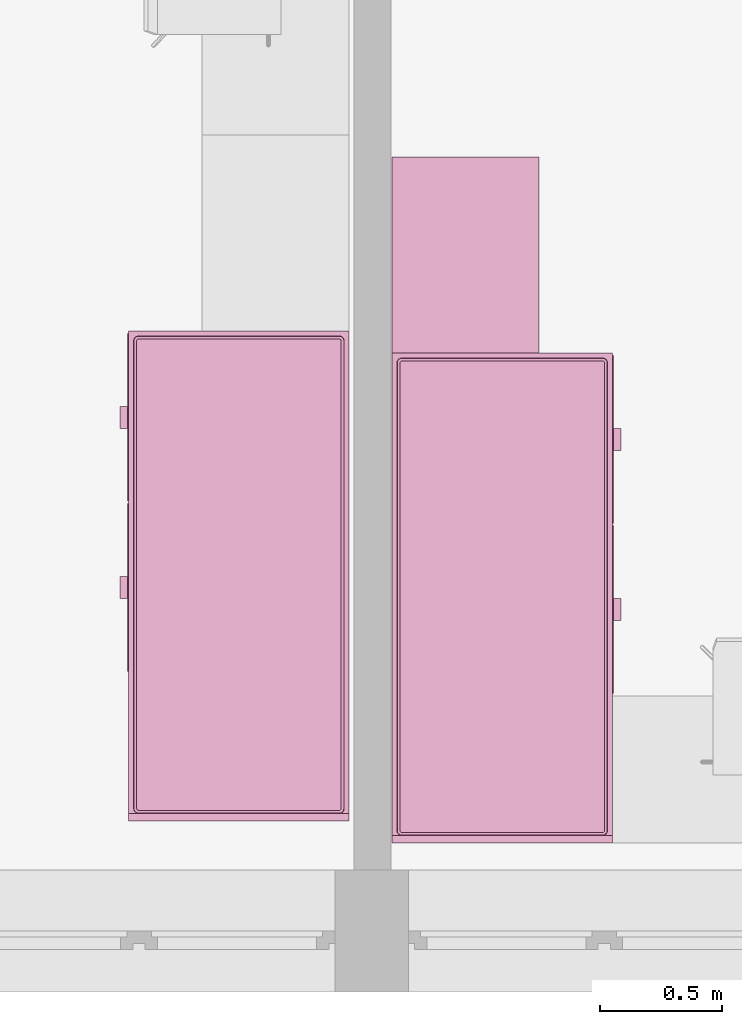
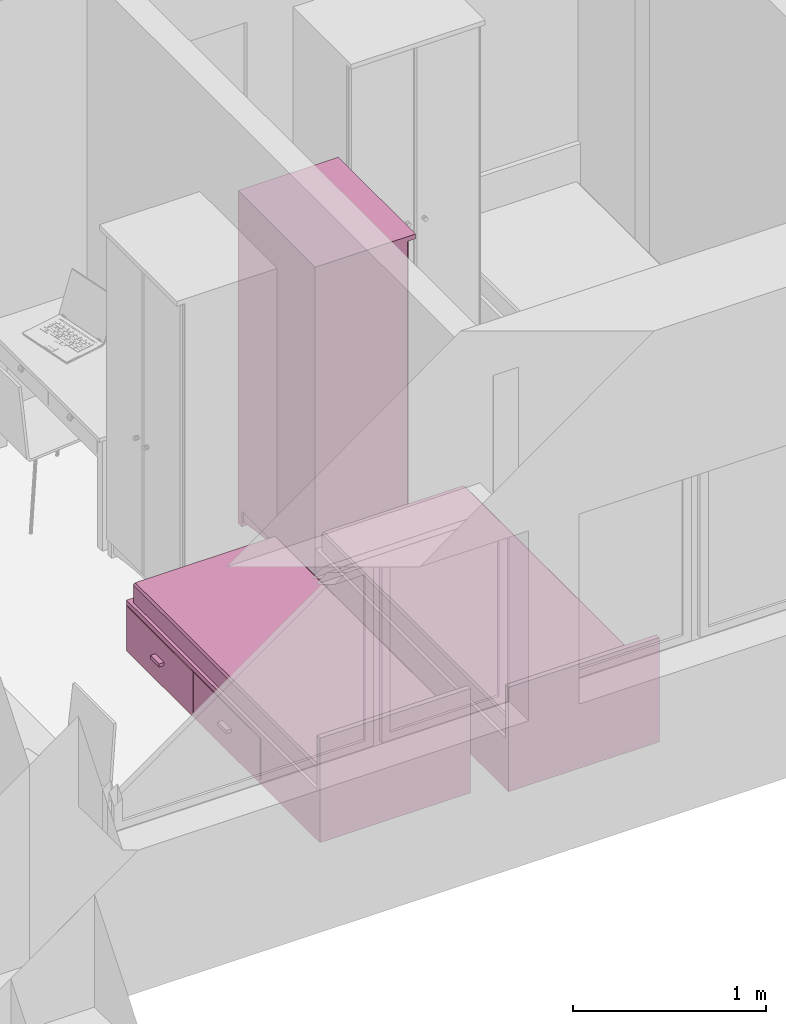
# One storey, part 116 of 172: 3 furnishings.
"""IFC2X3 building model written with IfcOpenShell, lengths in millimetres."""

from ifc_helpers import new_model, entity, si_unit, converted_unit, money_unit, direction, frame, origin_with_axes, place, context, subcontext, project, spatial, faceted_brep, source, transform, mapped, material, material_list, type_object, element, save


model = new_model("IFC2X3")

# Units and contexts
model_context = context("Model", 3, precision=1e-05, world=origin_with_axes(), true_north=direction((0.0, 1.0)))
body_context = subcontext(model_context, "Body", "Model", "MODEL_VIEW")
ifc_project = project(units=[si_unit("LENGTHUNIT", "METRE", prefix="MILLI"), si_unit("AREAUNIT", "SQUARE_METRE"), si_unit("VOLUMEUNIT", "CUBIC_METRE"), converted_unit("PLANEANGLEUNIT", "DEGREE", entity("IfcPlaneAngleMeasure", 0.0174532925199), si_unit("PLANEANGLEUNIT", "RADIAN"), dimensions=[0, 0, 0, 0, 0, 0, 0]), si_unit("SOLIDANGLEUNIT", "STERADIAN"), money_unit("USD"), converted_unit("TIMEUNIT", "Year", entity("IfcTimeMeasure", 31556926.0), si_unit("TIMEUNIT", "SECOND"), dimensions=[0, 0, 0, 0, 0, 0, 0]), si_unit("MASSUNIT", "GRAM"), si_unit("THERMODYNAMICTEMPERATUREUNIT", "DEGREE_CELSIUS"), si_unit("LUMINOUSINTENSITYUNIT", "LUMEN")], contexts=[model_context])

# Site, building, storey
site_placement = place(None, origin_with_axes())
site = spatial("IfcSite", under=ifc_project, at=site_placement, Name="Site", CompositionType="ELEMENT")
building_placement = place(site_placement, origin_with_axes())
building = spatial("IfcBuilding", under=site, at=building_placement, Name="Building", CompositionType="ELEMENT")
storey_placement = place(building_placement, frame((0.0, 0.0, 3200.0), z_axis=(0.0, 0.0, 1.0), x_axis=(1.0, 0.0, 0.0)))
storey = spatial("IfcBuildingStorey", under=building, at=storey_placement, Name="3KORRUS", CompositionType="ELEMENT", Elevation=3200.0)

# Furnishings
ifc_material = material(Name="Background")
ifc_material_list = material_list([ifc_material])
furnishing_element_type_1 = type_object("IfcFurnishingElementType", Name="Bed 19")
shared_shape_1 = source(origin_with_axes(), body_context, "Body", "Brep", [
    faceted_brep([(900.0, 1970.0, 0.0), (0.0, 1970.0, 0.0), (0.0, 2000.0, 0.0), (900.0, 2000.0, 0.0), (900.0, 1970.0, 660.0), (0.0, 1970.0, 660.0), (0.0, 2000.0, 660.0), (900.0, 2000.0, 660.0)], [[[0, 1, 2, 3]], [[1, 0, 4, 5]], [[2, 1, 5, 6]], [[3, 2, 6, 7]], [[0, 3, 7, 4]], [[5, 4, 7, 6]]]),
    faceted_brep([(900.0, 0.0, 0.0), (0.0, 0.0, 0.0), (0.0, 1970.0, 0.0), (900.0, 1970.0, 0.0), (900.0, 0.0, 320.0), (0.0, 0.0, 320.0), (0.0, 1970.0, 320.0), (900.0, 1970.0, 320.0)], [[[0, 1, 2, 3]], [[1, 0, 4, 5]], [[2, 1, 5, 6]], [[3, 2, 6, 7]], [[0, 3, 7, 4]], [[5, 4, 7, 6]]]),
    faceted_brep([(905.0, 10.0, 30.0), (900.0, 10.0, 30.0), (900.0, 695.0, 30.0), (905.0, 695.0, 30.0), (905.0, 10.0, 290.0), (900.0, 10.0, 290.0), (900.0, 695.0, 290.0), (905.0, 695.0, 290.0)], [[[0, 1, 2, 3]], [[1, 0, 4, 5]], [[2, 1, 5, 6]], [[3, 2, 6, 7]], [[0, 3, 7, 4]], [[5, 4, 7, 6]]]),
    faceted_brep([(935.0, 307.5, 150.0), (905.0, 307.5, 150.0), (905.0, 397.5, 150.0), (935.0, 397.5, 150.0), (935.0, 307.5, 170.0), (905.0, 307.5, 170.0), (905.0, 397.5, 170.0), (935.0, 397.5, 170.0)], [[[0, 1, 2, 3]], [[1, 0, 4, 5]], [[2, 1, 5, 6]], [[3, 2, 6, 7]], [[0, 3, 7, 4]], [[5, 4, 7, 6]]]),
    faceted_brep([(905.0, 705.0, 30.0), (900.0, 705.0, 30.0), (900.0, 1390.0, 30.0), (905.0, 1390.0, 30.0), (905.0, 705.0, 290.0), (900.0, 705.0, 290.0), (900.0, 1390.0, 290.0), (905.0, 1390.0, 290.0)], [[[0, 1, 2, 3]], [[1, 0, 4, 5]], [[2, 1, 5, 6]], [[3, 2, 6, 7]], [[0, 3, 7, 4]], [[5, 4, 7, 6]]]),
    faceted_brep([(935.0, 1002.5, 150.0), (905.0, 1002.5, 150.0), (905.0, 1092.5, 150.0), (935.0, 1092.5, 150.0), (935.0, 1002.5, 170.0), (905.0, 1002.5, 170.0), (905.0, 1092.5, 170.0), (935.0, 1092.5, 170.0)], [[[0, 1, 2, 3]], [[1, 0, 4, 5]], [[2, 1, 5, 6]], [[3, 2, 6, 7]], [[0, 3, 7, 4]], [[5, 4, 7, 6]]]),
    faceted_brep([(20.0, 40.0, 350.0), (20.0, 1950.0, 350.0), (21.522, 1957.654, 350.0), (25.858, 1964.142, 350.0), (32.346, 1968.478, 350.0), (40.0, 1970.0, 350.0), (860.0, 1970.0, 350.0), (867.654, 1968.478, 350.0), (874.142, 1964.142, 350.0), (878.478, 1957.654, 350.0), (880.0, 1950.0, 350.0), (880.0, 40.0, 350.0), (878.478, 32.346, 350.0), (874.142, 25.858, 350.0), (867.654, 21.522, 350.0), (860.0, 20.0, 350.0), (40.0, 20.0, 350.0), (32.346, 21.522, 350.0), (25.858, 25.858, 350.0), (21.522, 32.346, 350.0), (20.0, 40.0, 420.0), (20.0, 1950.0, 420.0), (21.522, 1957.654, 420.0), (25.858, 1964.142, 420.0), (32.346, 1968.478, 420.0), (40.0, 1970.0, 420.0), (860.0, 1970.0, 420.0), (867.654, 1968.478, 420.0), (874.142, 1964.142, 420.0), (878.478, 1957.654, 420.0), (880.0, 1950.0, 420.0), (880.0, 40.0, 420.0), (878.478, 32.346, 420.0), (874.142, 25.858, 420.0), (867.654, 21.522, 420.0), (860.0, 20.0, 420.0), (40.0, 20.0, 420.0), (32.346, 21.522, 420.0), (25.858, 25.858, 420.0), (21.522, 32.346, 420.0), (21.522, 40.15, 427.654), (21.522, 1949.85, 427.654), (22.956, 1957.06, 427.654), (26.955, 1963.045, 427.654), (32.94, 1967.044, 427.654), (40.15, 1968.478, 427.654), (859.85, 1968.478, 427.654), (867.06, 1967.044, 427.654), (873.045, 1963.045, 427.654), (877.044, 1957.06, 427.654), (878.478, 1949.85, 427.654), (878.478, 40.15, 427.654), (877.044, 32.94, 427.654), (873.045, 26.955, 427.654), (867.06, 22.956, 427.654), (859.85, 21.522, 427.654), (40.15, 21.522, 427.654), (32.94, 22.956, 427.654), (26.955, 26.955, 427.654), (22.956, 32.94, 427.654), (32.346, 41.216, 438.478), (32.346, 1948.784, 438.478), (33.152, 1952.836, 438.478), (34.759, 1955.241, 438.478), (37.164, 1956.848, 438.478), (41.216, 1957.654, 438.478), (858.784, 1957.654, 438.478), (862.836, 1956.848, 438.478), (865.241, 1955.241, 438.478), (866.848, 1952.836, 438.478), (867.654, 1948.784, 438.478), (867.654, 41.216, 438.478), (866.848, 37.164, 438.478), (865.241, 34.759, 438.478), (862.836, 33.152, 438.478), (858.784, 32.346, 438.478), (41.216, 32.346, 438.478), (37.164, 33.152, 438.478), (34.759, 34.759, 438.478), (33.152, 37.164, 438.478), (40.0, 41.97, 440.0), (40.0, 1948.03, 440.0), (40.327, 1949.673, 440.0), (40.0, 1950.0, 439.924), (41.97, 1950.0, 440.0), (858.03, 1950.0, 440.0), (859.673, 1949.673, 440.0), (860.0, 1950.0, 439.924), (860.0, 1948.03, 440.0), (860.0, 41.97, 440.0), (859.673, 40.327, 440.0), (860.0, 40.0, 439.924), (858.03, 40.0, 440.0), (41.97, 40.0, 440.0), (40.327, 40.327, 440.0), (40.0, 40.0, 439.924)], [[[0, 1, 2, 3, 4, 5, 6, 7, 8, 9, 10, 11, 12, 13, 14, 15, 16, 17, 18, 19]], [[1, 0, 20, 21]], [[2, 1, 21, 22]], [[3, 2, 22, 23]], [[4, 3, 23, 24]], [[5, 4, 24, 25]], [[6, 5, 25, 26]], [[7, 6, 26, 27]], [[8, 7, 27, 28]], [[9, 8, 28, 29]], [[10, 9, 29, 30]], [[11, 10, 30, 31]], [[12, 11, 31, 32]], [[13, 12, 32, 33]], [[14, 13, 33, 34]], [[15, 14, 34, 35]], [[16, 15, 35, 36]], [[17, 16, 36, 37]], [[18, 17, 37, 38]], [[19, 18, 38, 39]], [[0, 19, 39, 20]], [[21, 20, 40, 41]], [[22, 21, 41, 42]], [[23, 22, 42, 43]], [[24, 23, 43, 44]], [[25, 24, 44, 45]], [[26, 25, 45, 46]], [[27, 26, 46, 47]], [[28, 27, 47, 48]], [[29, 28, 48, 49]], [[30, 29, 49, 50]], [[31, 30, 50, 51]], [[32, 31, 51, 52]], [[33, 32, 52, 53]], [[34, 33, 53, 54]], [[35, 34, 54, 55]], [[36, 35, 55, 56]], [[37, 36, 56, 57]], [[38, 37, 57, 58]], [[39, 38, 58, 59]], [[20, 39, 59, 40]], [[41, 40, 60, 61]], [[42, 41, 61, 62]], [[43, 42, 62, 63]], [[44, 43, 63, 64]], [[45, 44, 64, 65]], [[46, 45, 65, 66]], [[47, 46, 66, 67]], [[48, 47, 67, 68]], [[49, 48, 68, 69]], [[50, 49, 69, 70]], [[51, 50, 70, 71]], [[52, 51, 71, 72]], [[53, 52, 72, 73]], [[54, 53, 73, 74]], [[55, 54, 74, 75]], [[56, 55, 75, 76]], [[57, 56, 76, 77]], [[58, 57, 77, 78]], [[59, 58, 78, 79]], [[40, 59, 79, 60]], [[61, 60, 80, 81]], [[62, 61, 81, 82, 83]], [[63, 62, 83]], [[64, 63, 83]], [[65, 64, 83, 82, 84]], [[66, 65, 84, 85]], [[67, 66, 85, 86, 87]], [[68, 67, 87]], [[69, 68, 87]], [[70, 69, 87, 86, 88]], [[71, 70, 88, 89]], [[72, 71, 89, 90, 91]], [[73, 72, 91]], [[74, 73, 91]], [[75, 74, 91, 90, 92]], [[76, 75, 92, 93]], [[77, 76, 93, 94, 95]], [[78, 77, 95]], [[79, 78, 95]], [[60, 79, 95, 94, 80]], [[81, 80, 94, 93, 92, 90, 89, 88, 86, 85, 84, 82]]]),
    faceted_brep([(20.0, 40.0, 350.0), (21.522, 32.346, 350.0), (25.858, 25.858, 350.0), (32.346, 21.522, 350.0), (40.0, 20.0, 350.0), (860.0, 20.0, 350.0), (867.654, 21.522, 350.0), (874.142, 25.858, 350.0), (878.478, 32.346, 350.0), (880.0, 40.0, 350.0), (880.0, 1950.0, 350.0), (878.478, 1957.654, 350.0), (874.142, 1964.142, 350.0), (867.654, 1968.478, 350.0), (860.0, 1970.0, 350.0), (40.0, 1970.0, 350.0), (32.346, 1968.478, 350.0), (25.858, 1964.142, 350.0), (21.522, 1957.654, 350.0), (20.0, 1950.0, 350.0), (20.0, 40.0, 320.0), (21.522, 32.346, 320.0), (25.858, 25.858, 320.0), (32.346, 21.522, 320.0), (40.0, 20.0, 320.0), (860.0, 20.0, 320.0), (867.654, 21.522, 320.0), (874.142, 25.858, 320.0), (878.478, 32.346, 320.0), (880.0, 40.0, 320.0), (880.0, 1950.0, 320.0), (878.478, 1957.654, 320.0), (874.142, 1964.142, 320.0), (867.654, 1968.478, 320.0), (860.0, 1970.0, 320.0), (40.0, 1970.0, 320.0), (32.346, 1968.478, 320.0), (25.858, 1964.142, 320.0), (21.522, 1957.654, 320.0), (20.0, 1950.0, 320.0)], [[[0, 1, 2, 3, 4, 5, 6, 7, 8, 9, 10, 11, 12, 13, 14, 15, 16, 17, 18, 19]], [[0, 20, 21, 1]], [[1, 21, 22, 2]], [[2, 22, 23, 3]], [[3, 23, 24, 4]], [[4, 24, 25, 5]], [[5, 25, 26, 6]], [[6, 26, 27, 7]], [[7, 27, 28, 8]], [[8, 28, 29, 9]], [[9, 29, 30, 10]], [[10, 30, 31, 11]], [[11, 31, 32, 12]], [[12, 32, 33, 13]], [[13, 33, 34, 14]], [[14, 34, 35, 15]], [[15, 35, 36, 16]], [[16, 36, 37, 17]], [[17, 37, 38, 18]], [[18, 38, 39, 19]], [[19, 39, 20, 0]], [[20, 39, 38, 37, 36, 35, 34, 33, 32, 31, 30, 29, 28, 27, 26, 25, 24, 23, 22, 21]]]),
])
furnishing_1_placement = place(storey_placement, frame((-21240.2967033, -17439.2398994, 0.0), z_axis=(0.0, 0.0, 1.0), x_axis=(-1.0, 0.0, 0.0)))
element("IfcFurnishingElement", 1, at=furnishing_1_placement, inside=storey, type_object=furnishing_element_type_1, material=ifc_material_list, Name="FU - 013", context=body_context, shape_type="MappedRepresentation", body=[
    mapped(shared_shape_1, transform((0.0, 0.0, 0.0))),
])
furnishing_element_type_2 = type_object("IfcFurnishingElementType", Name="Cupboard 19")
shared_shape_2 = source(origin_with_axes(), body_context, "Body", "Brep", [
    faceted_brep([(780.0, 600.0, 120.0), (780.0, 600.0, 2050.0), (780.0, 580.0, 2050.0), (780.0, 580.0, 120.0), (20.0, 600.0, 120.0), (20.0, 600.0, 2050.0), (20.0, 580.0, 2050.0), (20.0, 580.0, 120.0)], [[[0, 1, 2, 3]], [[4, 5, 1, 0]], [[1, 5, 6, 2]], [[3, 2, 6, 7]], [[0, 3, 7, 4]], [[7, 6, 5, 4]]]),
    faceted_brep([(0.0, 50.0, 100.0), (0.0, 600.0, 100.0), (20.0, 600.0, 100.0), (20.0, 50.0, 100.0), (0.0, 50.0, 2070.0), (0.0, 600.0, 2070.0), (20.0, 600.0, 2070.0), (20.0, 50.0, 2070.0)], [[[0, 1, 2, 3]], [[0, 4, 5, 1]], [[1, 5, 6, 2]], [[2, 6, 7, 3]], [[3, 7, 4, 0]], [[7, 6, 5, 4]]]),
    faceted_brep([(780.0, 50.0, 100.0), (780.0, 600.0, 100.0), (800.0, 600.0, 100.0), (800.0, 50.0, 100.0), (780.0, 50.0, 2070.0), (780.0, 600.0, 2070.0), (800.0, 600.0, 2070.0), (800.0, 50.0, 2070.0)], [[[0, 1, 2, 3]], [[0, 4, 5, 1]], [[1, 5, 6, 2]], [[2, 6, 7, 3]], [[3, 7, 4, 0]], [[7, 6, 5, 4]]]),
    faceted_brep([(20.0, 50.0, 100.0), (20.0, 600.0, 100.0), (780.0, 600.0, 100.0), (780.0, 50.0, 100.0), (20.0, 50.0, 120.0), (20.0, 600.0, 120.0), (780.0, 600.0, 120.0), (780.0, 50.0, 120.0)], [[[0, 1, 2, 3]], [[0, 4, 5, 1]], [[1, 5, 6, 2]], [[2, 6, 7, 3]], [[3, 7, 4, 0]], [[7, 6, 5, 4]]]),
    faceted_brep([(20.0, 50.0, 2050.0), (20.0, 600.0, 2050.0), (780.0, 600.0, 2050.0), (780.0, 50.0, 2050.0), (20.0, 50.0, 2070.0), (20.0, 600.0, 2070.0), (780.0, 600.0, 2070.0), (780.0, 50.0, 2070.0)], [[[0, 1, 2, 3]], [[0, 4, 5, 1]], [[1, 5, 6, 2]], [[2, 6, 7, 3]], [[3, 7, 4, 0]], [[7, 6, 5, 4]]]),
    faceted_brep([(0.0, 600.0, 2070.0), (0.0, 0.0, 2070.0), (0.0, 0.0, 2100.0), (0.0, 600.0, 2100.0), (800.0, 600.0, 2070.0), (800.0, 0.0, 2070.0), (800.0, 0.0, 2100.0), (800.0, 600.0, 2100.0)], [[[0, 1, 2, 3]], [[0, 4, 5, 1]], [[1, 5, 6, 2]], [[3, 2, 6, 7]], [[4, 0, 3, 7]], [[5, 4, 7, 6]]]),
    faceted_brep([(760.0, 590.0, 25.0), (760.0, 570.0, 25.0), (640.962, 570.0, 45.8), (640.962, 590.0, 45.8), (760.0, 590.0, 100.0), (760.0, 570.0, 100.0), (40.0, 570.0, 100.0), (40.0, 570.0, 25.0), (159.038, 570.0, 45.8), (279.23, 570.0, 58.32), (400.0, 570.0, 62.5), (520.77, 570.0, 58.32), (520.77, 590.0, 58.32), (400.0, 590.0, 62.5), (279.23, 590.0, 58.32), (159.038, 590.0, 45.8), (40.0, 590.0, 25.0), (40.0, 590.0, 100.0)], [[[0, 1, 2, 3]], [[4, 5, 1, 0]], [[1, 5, 6, 7, 8, 9, 10, 11, 2]], [[3, 2, 11, 12]], [[0, 3, 12, 13, 14, 15, 16, 17, 4]], [[17, 6, 5, 4]], [[16, 7, 6, 17]], [[15, 8, 7, 16]], [[14, 9, 8, 15]], [[13, 10, 9, 14]], [[12, 11, 10, 13]]]),
    faceted_brep([(760.0, 80.0, 25.0), (760.0, 60.0, 25.0), (640.962, 60.0, 45.8), (640.962, 80.0, 45.8), (760.0, 80.0, 100.0), (760.0, 60.0, 100.0), (40.0, 60.0, 100.0), (40.0, 60.0, 25.0), (159.038, 60.0, 45.8), (279.23, 60.0, 58.32), (400.0, 60.0, 62.5), (520.77, 60.0, 58.32), (520.77, 80.0, 58.32), (400.0, 80.0, 62.5), (279.23, 80.0, 58.32), (159.038, 80.0, 45.8), (40.0, 80.0, 25.0), (40.0, 80.0, 100.0)], [[[0, 1, 2, 3]], [[4, 5, 1, 0]], [[1, 5, 6, 7, 8, 9, 10, 11, 2]], [[3, 2, 11, 12]], [[0, 3, 12, 13, 14, 15, 16, 17, 4]], [[17, 6, 5, 4]], [[16, 7, 6, 17]], [[15, 8, 7, 16]], [[14, 9, 8, 15]], [[13, 10, 9, 14]], [[12, 11, 10, 13]]]),
    faceted_brep([(790.0, 90.0, 25.0), (770.0, 90.0, 25.0), (770.0, 141.266, 38.072), (790.0, 141.266, 38.072), (790.0, 90.0, 100.0), (770.0, 90.0, 100.0), (770.0, 560.0, 100.0), (770.0, 560.0, 25.0), (770.0, 508.734, 38.072), (770.0, 456.752, 47.92), (770.0, 404.257, 54.508), (770.0, 351.453, 57.808), (770.0, 298.547, 57.808), (770.0, 245.743, 54.508), (770.0, 193.248, 47.92), (790.0, 193.248, 47.92), (790.0, 245.743, 54.508), (790.0, 298.547, 57.808), (790.0, 351.453, 57.808), (790.0, 404.257, 54.508), (790.0, 456.752, 47.92), (790.0, 508.734, 38.072), (790.0, 560.0, 25.0), (790.0, 560.0, 100.0)], [[[0, 1, 2, 3]], [[4, 5, 1, 0]], [[1, 5, 6, 7, 8, 9, 10, 11, 12, 13, 14, 2]], [[3, 2, 14, 15]], [[0, 3, 15, 16, 17, 18, 19, 20, 21, 22, 23, 4]], [[23, 6, 5, 4]], [[22, 7, 6, 23]], [[21, 8, 7, 22]], [[20, 9, 8, 21]], [[19, 10, 9, 20]], [[18, 11, 10, 19]], [[17, 12, 11, 18]], [[16, 13, 12, 17]], [[15, 14, 13, 16]]]),
    faceted_brep([(30.0, 90.0, 25.0), (10.0, 90.0, 25.0), (10.0, 141.266, 38.072), (30.0, 141.266, 38.072), (30.0, 90.0, 100.0), (10.0, 90.0, 100.0), (10.0, 560.0, 100.0), (10.0, 560.0, 25.0), (10.0, 508.734, 38.072), (10.0, 456.752, 47.92), (10.0, 404.257, 54.508), (10.0, 351.453, 57.808), (10.0, 298.547, 57.808), (10.0, 245.743, 54.508), (10.0, 193.248, 47.92), (30.0, 193.248, 47.92), (30.0, 245.743, 54.508), (30.0, 298.547, 57.808), (30.0, 351.453, 57.808), (30.0, 404.257, 54.508), (30.0, 456.752, 47.92), (30.0, 508.734, 38.072), (30.0, 560.0, 25.0), (30.0, 560.0, 100.0)], [[[0, 1, 2, 3]], [[4, 5, 1, 0]], [[1, 5, 6, 7, 8, 9, 10, 11, 12, 13, 14, 2]], [[3, 2, 14, 15]], [[0, 3, 15, 16, 17, 18, 19, 20, 21, 22, 23, 4]], [[23, 6, 5, 4]], [[22, 7, 6, 23]], [[21, 8, 7, 22]], [[20, 9, 8, 21]], [[19, 10, 9, 20]], [[18, 11, 10, 19]], [[17, 12, 11, 18]], [[16, 13, 12, 17]], [[15, 14, 13, 16]]]),
    faceted_brep([(760.0, 560.0, 0.0), (760.0, 560.0, 100.0), (760.0, 600.0, 100.0), (760.0, 600.0, 0.0), (800.0, 560.0, 0.0), (800.0, 560.0, 100.0), (800.0, 600.0, 100.0), (800.0, 600.0, 0.0)], [[[0, 1, 2, 3]], [[4, 5, 1, 0]], [[1, 5, 6, 2]], [[3, 2, 6, 7]], [[0, 3, 7, 4]], [[7, 6, 5, 4]]]),
    faceted_brep([(0.0, 560.0, 0.0), (0.0, 560.0, 100.0), (0.0, 600.0, 100.0), (0.0, 600.0, 0.0), (40.0, 560.0, 0.0), (40.0, 560.0, 100.0), (40.0, 600.0, 100.0), (40.0, 600.0, 0.0)], [[[0, 1, 2, 3]], [[4, 5, 1, 0]], [[1, 5, 6, 2]], [[3, 2, 6, 7]], [[0, 3, 7, 4]], [[7, 6, 5, 4]]]),
    faceted_brep([(760.0, 50.0, 0.0), (760.0, 50.0, 100.0), (760.0, 90.0, 100.0), (760.0, 90.0, 0.0), (800.0, 50.0, 0.0), (800.0, 50.0, 100.0), (800.0, 90.0, 100.0), (800.0, 90.0, 0.0)], [[[0, 1, 2, 3]], [[4, 5, 1, 0]], [[1, 5, 6, 2]], [[3, 2, 6, 7]], [[0, 3, 7, 4]], [[7, 6, 5, 4]]]),
    faceted_brep([(0.0, 50.0, 0.0), (0.0, 50.0, 100.0), (0.0, 90.0, 100.0), (0.0, 90.0, 0.0), (40.0, 50.0, 0.0), (40.0, 50.0, 100.0), (40.0, 90.0, 100.0), (40.0, 90.0, 0.0)], [[[0, 1, 2, 3]], [[4, 5, 1, 0]], [[1, 5, 6, 2]], [[3, 2, 6, 7]], [[0, 3, 7, 4]], [[7, 6, 5, 4]]]),
    faceted_brep([(780.0, 580.0, 587.5), (780.0, 580.0, 607.5), (780.0, 50.0, 607.5), (780.0, 50.0, 587.5), (20.0, 580.0, 587.5), (20.0, 580.0, 607.5), (20.0, 50.0, 607.5), (20.0, 50.0, 587.5)], [[[0, 1, 2, 3]], [[4, 5, 1, 0]], [[1, 5, 6, 2]], [[3, 2, 6, 7]], [[0, 3, 7, 4]], [[7, 6, 5, 4]]]),
    faceted_brep([(780.0, 580.0, 1075.0), (780.0, 580.0, 1095.0), (780.0, 50.0, 1095.0), (780.0, 50.0, 1075.0), (20.0, 580.0, 1075.0), (20.0, 580.0, 1095.0), (20.0, 50.0, 1095.0), (20.0, 50.0, 1075.0)], [[[0, 1, 2, 3]], [[4, 5, 1, 0]], [[1, 5, 6, 2]], [[3, 2, 6, 7]], [[0, 3, 7, 4]], [[7, 6, 5, 4]]]),
    faceted_brep([(780.0, 580.0, 1562.5), (780.0, 580.0, 1582.5), (780.0, 50.0, 1582.5), (780.0, 50.0, 1562.5), (20.0, 580.0, 1562.5), (20.0, 580.0, 1582.5), (20.0, 50.0, 1582.5), (20.0, 50.0, 1562.5)], [[[0, 1, 2, 3]], [[4, 5, 1, 0]], [[1, 5, 6, 2]], [[3, 2, 6, 7]], [[0, 3, 7, 4]], [[7, 6, 5, 4]]]),
    faceted_brep([(789.5, 50.0, 110.5), (400.5, 50.0, 110.5), (400.5, 50.0, 2059.5), (789.5, 50.0, 2059.5), (789.5, 40.0, 110.5), (400.5, 40.0, 110.5), (400.5, 40.0, 2059.5), (789.5, 40.0, 2059.5), (779.5, 30.0, 120.5), (410.5, 30.0, 120.5), (410.5, 30.0, 2049.5), (779.5, 30.0, 2049.5)], [[[0, 1, 2, 3]], [[0, 4, 5, 1]], [[1, 5, 6, 2]], [[2, 6, 7, 3]], [[3, 7, 4, 0]], [[4, 8, 9, 5]], [[5, 9, 10, 6]], [[6, 10, 11, 7]], [[7, 11, 8, 4]], [[10, 9, 8, 11]]]),
    faceted_brep([(399.5, 50.0, 110.5), (10.5, 50.0, 110.5), (10.5, 50.0, 2059.5), (399.5, 50.0, 2059.5), (399.5, 40.0, 110.5), (10.5, 40.0, 110.5), (10.5, 40.0, 2059.5), (399.5, 40.0, 2059.5), (389.5, 30.0, 120.5), (20.5, 30.0, 120.5), (20.5, 30.0, 2049.5), (389.5, 30.0, 2049.5)], [[[0, 1, 2, 3]], [[0, 4, 5, 1]], [[1, 5, 6, 2]], [[2, 6, 7, 3]], [[3, 7, 4, 0]], [[4, 8, 9, 5]], [[5, 9, 10, 6]], [[6, 10, 11, 7]], [[7, 11, 8, 4]], [[10, 9, 8, 11]]]),
    faceted_brep([(339.608, 30.0, 954.0), (338.0, 30.0, 960.0), (339.608, 30.0, 966.0), (344.0, 30.0, 970.392), (350.0, 30.0, 972.0), (356.0, 30.0, 970.392), (360.392, 30.0, 966.0), (362.0, 30.0, 960.0), (360.392, 30.0, 954.0), (356.0, 30.0, 949.608), (350.0, 30.0, 948.0), (344.0, 30.0, 949.608), (339.608, 5.0, 954.0), (338.0, 5.0, 960.0), (339.608, 5.0, 966.0), (344.0, 5.0, 970.392), (350.0, 5.0, 972.0), (356.0, 5.0, 970.392), (360.392, 5.0, 966.0), (362.0, 5.0, 960.0), (360.392, 5.0, 954.0), (356.0, 5.0, 949.608), (350.0, 5.0, 948.0), (344.0, 5.0, 949.608)], [[[0, 1, 2, 3, 4, 5, 6, 7, 8, 9, 10, 11]], [[0, 12, 13, 1]], [[1, 13, 14, 2]], [[2, 14, 15, 3]], [[3, 15, 16, 4]], [[4, 16, 17, 5]], [[5, 17, 18, 6]], [[6, 18, 19, 7]], [[7, 19, 20, 8]], [[8, 20, 21, 9]], [[9, 21, 22, 10]], [[10, 22, 23, 11]], [[11, 23, 12, 0]], [[12, 23, 22, 21, 20, 19, 18, 17, 16, 15, 14, 13]]]),
    faceted_brep([(460.392, 30.0, 954.0), (456.0, 30.0, 949.608), (450.0, 30.0, 948.0), (444.0, 30.0, 949.608), (439.608, 30.0, 954.0), (438.0, 30.0, 960.0), (439.608, 30.0, 966.0), (444.0, 30.0, 970.392), (450.0, 30.0, 972.0), (456.0, 30.0, 970.392), (460.392, 30.0, 966.0), (462.0, 30.0, 960.0), (460.392, 5.0, 954.0), (456.0, 5.0, 949.608), (450.0, 5.0, 948.0), (444.0, 5.0, 949.608), (439.608, 5.0, 954.0), (438.0, 5.0, 960.0), (439.608, 5.0, 966.0), (444.0, 5.0, 970.392), (450.0, 5.0, 972.0), (456.0, 5.0, 970.392), (460.392, 5.0, 966.0), (462.0, 5.0, 960.0)], [[[0, 1, 2, 3, 4, 5, 6, 7, 8, 9, 10, 11]], [[1, 0, 12, 13]], [[2, 1, 13, 14]], [[3, 2, 14, 15]], [[4, 3, 15, 16]], [[5, 4, 16, 17]], [[6, 5, 17, 18]], [[7, 6, 18, 19]], [[8, 7, 19, 20]], [[9, 8, 20, 21]], [[10, 9, 21, 22]], [[11, 10, 22, 23]], [[0, 11, 23, 12]], [[12, 23, 22, 21, 20, 19, 18, 17, 16, 15, 14, 13]]]),
])
furnishing_2_placement = place(storey_placement, frame((-20465.2967033, -17529.2398994, 0.0), z_axis=(0.0, 0.0, 1.0), x_axis=(0.0, 1.0, 0.0)))
element("IfcFurnishingElement", 2, at=furnishing_2_placement, inside=storey, type_object=furnishing_element_type_2, material=ifc_material_list, Name="FU - 014", context=body_context, shape_type="MappedRepresentation", body=[
    mapped(shared_shape_2, transform((0.0, 0.0, 0.0))),
])
shared_shape_3 = source(origin_with_axes(), body_context, "Body", "Brep", [
    faceted_brep([(-900.0, 1970.0, 0.0), (-900.0, 2000.0, 0.0), (0.0, 2000.0, 0.0), (0.0, 1970.0, 0.0), (-900.0, 1970.0, 660.0), (-900.0, 2000.0, 660.0), (0.0, 2000.0, 660.0), (0.0, 1970.0, 660.0)], [[[0, 1, 2, 3]], [[0, 4, 5, 1]], [[1, 5, 6, 2]], [[2, 6, 7, 3]], [[3, 7, 4, 0]], [[7, 6, 5, 4]]]),
    faceted_brep([(-900.0, 0.0, 0.0), (-900.0, 1970.0, 0.0), (0.0, 1970.0, 0.0), (0.0, 0.0, 0.0), (-900.0, 0.0, 320.0), (-900.0, 1970.0, 320.0), (0.0, 1970.0, 320.0), (0.0, 0.0, 320.0)], [[[0, 1, 2, 3]], [[0, 4, 5, 1]], [[1, 5, 6, 2]], [[2, 6, 7, 3]], [[3, 7, 4, 0]], [[7, 6, 5, 4]]]),
    faceted_brep([(-905.0, 10.0, 30.0), (-905.0, 695.0, 30.0), (-900.0, 695.0, 30.0), (-900.0, 10.0, 30.0), (-905.0, 10.0, 290.0), (-905.0, 695.0, 290.0), (-900.0, 695.0, 290.0), (-900.0, 10.0, 290.0)], [[[0, 1, 2, 3]], [[0, 4, 5, 1]], [[1, 5, 6, 2]], [[2, 6, 7, 3]], [[3, 7, 4, 0]], [[7, 6, 5, 4]]]),
    faceted_brep([(-935.0, 307.5, 150.0), (-935.0, 397.5, 150.0), (-905.0, 397.5, 150.0), (-905.0, 307.5, 150.0), (-935.0, 307.5, 170.0), (-935.0, 397.5, 170.0), (-905.0, 397.5, 170.0), (-905.0, 307.5, 170.0)], [[[0, 1, 2, 3]], [[0, 4, 5, 1]], [[1, 5, 6, 2]], [[2, 6, 7, 3]], [[3, 7, 4, 0]], [[7, 6, 5, 4]]]),
    faceted_brep([(-905.0, 705.0, 30.0), (-905.0, 1390.0, 30.0), (-900.0, 1390.0, 30.0), (-900.0, 705.0, 30.0), (-905.0, 705.0, 290.0), (-905.0, 1390.0, 290.0), (-900.0, 1390.0, 290.0), (-900.0, 705.0, 290.0)], [[[0, 1, 2, 3]], [[0, 4, 5, 1]], [[1, 5, 6, 2]], [[2, 6, 7, 3]], [[3, 7, 4, 0]], [[7, 6, 5, 4]]]),
    faceted_brep([(-935.0, 1002.5, 150.0), (-935.0, 1092.5, 150.0), (-905.0, 1092.5, 150.0), (-905.0, 1002.5, 150.0), (-935.0, 1002.5, 170.0), (-935.0, 1092.5, 170.0), (-905.0, 1092.5, 170.0), (-905.0, 1002.5, 170.0)], [[[0, 1, 2, 3]], [[0, 4, 5, 1]], [[1, 5, 6, 2]], [[2, 6, 7, 3]], [[3, 7, 4, 0]], [[7, 6, 5, 4]]]),
    faceted_brep([(-20.0, 40.0, 350.0), (-21.522, 32.346, 350.0), (-25.858, 25.858, 350.0), (-32.346, 21.522, 350.0), (-40.0, 20.0, 350.0), (-860.0, 20.0, 350.0), (-867.654, 21.522, 350.0), (-874.142, 25.858, 350.0), (-878.478, 32.346, 350.0), (-880.0, 40.0, 350.0), (-880.0, 1950.0, 350.0), (-878.478, 1957.654, 350.0), (-874.142, 1964.142, 350.0), (-867.654, 1968.478, 350.0), (-860.0, 1970.0, 350.0), (-40.0, 1970.0, 350.0), (-32.346, 1968.478, 350.0), (-25.858, 1964.142, 350.0), (-21.522, 1957.654, 350.0), (-20.0, 1950.0, 350.0), (-20.0, 40.0, 420.0), (-21.522, 32.346, 420.0), (-25.858, 25.858, 420.0), (-32.346, 21.522, 420.0), (-40.0, 20.0, 420.0), (-860.0, 20.0, 420.0), (-867.654, 21.522, 420.0), (-874.142, 25.858, 420.0), (-878.478, 32.346, 420.0), (-880.0, 40.0, 420.0), (-880.0, 1950.0, 420.0), (-878.478, 1957.654, 420.0), (-874.142, 1964.142, 420.0), (-867.654, 1968.478, 420.0), (-860.0, 1970.0, 420.0), (-40.0, 1970.0, 420.0), (-32.346, 1968.478, 420.0), (-25.858, 1964.142, 420.0), (-21.522, 1957.654, 420.0), (-20.0, 1950.0, 420.0), (-21.522, 40.15, 427.654), (-22.956, 32.94, 427.654), (-26.955, 26.955, 427.654), (-32.94, 22.956, 427.654), (-40.15, 21.522, 427.654), (-859.85, 21.522, 427.654), (-867.06, 22.956, 427.654), (-873.045, 26.955, 427.654), (-877.044, 32.94, 427.654), (-878.478, 40.15, 427.654), (-878.478, 1949.85, 427.654), (-877.044, 1957.06, 427.654), (-873.045, 1963.045, 427.654), (-867.06, 1967.044, 427.654), (-859.85, 1968.478, 427.654), (-40.15, 1968.478, 427.654), (-32.94, 1967.044, 427.654), (-26.955, 1963.045, 427.654), (-22.956, 1957.06, 427.654), (-21.522, 1949.85, 427.654), (-32.346, 41.216, 438.478), (-33.152, 37.164, 438.478), (-34.759, 34.759, 438.478), (-37.164, 33.152, 438.478), (-41.216, 32.346, 438.478), (-858.784, 32.346, 438.478), (-862.836, 33.152, 438.478), (-865.241, 34.759, 438.478), (-866.848, 37.164, 438.478), (-867.654, 41.216, 438.478), (-867.654, 1948.784, 438.478), (-866.848, 1952.836, 438.478), (-865.241, 1955.241, 438.478), (-862.836, 1956.848, 438.478), (-858.784, 1957.654, 438.478), (-41.216, 1957.654, 438.478), (-37.164, 1956.848, 438.478), (-34.759, 1955.241, 438.478), (-33.152, 1952.836, 438.478), (-32.346, 1948.784, 438.478), (-40.0, 41.97, 440.0), (-40.327, 40.327, 440.0), (-40.0, 40.0, 439.924), (-41.97, 40.0, 440.0), (-858.03, 40.0, 440.0), (-859.673, 40.327, 440.0), (-860.0, 40.0, 439.924), (-860.0, 41.97, 440.0), (-860.0, 1948.03, 440.0), (-859.673, 1949.673, 440.0), (-860.0, 1950.0, 439.924), (-858.03, 1950.0, 440.0), (-41.97, 1950.0, 440.0), (-40.327, 1949.673, 440.0), (-40.0, 1950.0, 439.924), (-40.0, 1948.03, 440.0)], [[[0, 1, 2, 3, 4, 5, 6, 7, 8, 9, 10, 11, 12, 13, 14, 15, 16, 17, 18, 19]], [[0, 20, 21, 1]], [[1, 21, 22, 2]], [[2, 22, 23, 3]], [[3, 23, 24, 4]], [[4, 24, 25, 5]], [[5, 25, 26, 6]], [[6, 26, 27, 7]], [[7, 27, 28, 8]], [[8, 28, 29, 9]], [[9, 29, 30, 10]], [[10, 30, 31, 11]], [[11, 31, 32, 12]], [[12, 32, 33, 13]], [[13, 33, 34, 14]], [[14, 34, 35, 15]], [[15, 35, 36, 16]], [[16, 36, 37, 17]], [[17, 37, 38, 18]], [[18, 38, 39, 19]], [[19, 39, 20, 0]], [[20, 40, 41, 21]], [[21, 41, 42, 22]], [[22, 42, 43, 23]], [[23, 43, 44, 24]], [[24, 44, 45, 25]], [[25, 45, 46, 26]], [[26, 46, 47, 27]], [[27, 47, 48, 28]], [[28, 48, 49, 29]], [[29, 49, 50, 30]], [[30, 50, 51, 31]], [[31, 51, 52, 32]], [[32, 52, 53, 33]], [[33, 53, 54, 34]], [[34, 54, 55, 35]], [[35, 55, 56, 36]], [[36, 56, 57, 37]], [[37, 57, 58, 38]], [[38, 58, 59, 39]], [[39, 59, 40, 20]], [[40, 60, 61, 41]], [[41, 61, 62, 42]], [[42, 62, 63, 43]], [[43, 63, 64, 44]], [[44, 64, 65, 45]], [[45, 65, 66, 46]], [[46, 66, 67, 47]], [[47, 67, 68, 48]], [[48, 68, 69, 49]], [[49, 69, 70, 50]], [[50, 70, 71, 51]], [[51, 71, 72, 52]], [[52, 72, 73, 53]], [[53, 73, 74, 54]], [[54, 74, 75, 55]], [[55, 75, 76, 56]], [[56, 76, 77, 57]], [[57, 77, 78, 58]], [[58, 78, 79, 59]], [[59, 79, 60, 40]], [[60, 80, 81, 82, 61]], [[61, 82, 62]], [[62, 82, 63]], [[63, 82, 81, 83, 64]], [[64, 83, 84, 65]], [[65, 84, 85, 86, 66]], [[66, 86, 67]], [[67, 86, 68]], [[68, 86, 85, 87, 69]], [[69, 87, 88, 70]], [[70, 88, 89, 90, 71]], [[71, 90, 72]], [[72, 90, 73]], [[73, 90, 89, 91, 74]], [[74, 91, 92, 75]], [[75, 92, 93, 94, 76]], [[76, 94, 77]], [[77, 94, 78]], [[78, 94, 93, 95, 79]], [[79, 95, 80, 60]], [[95, 93, 92, 91, 89, 88, 87, 85, 84, 83, 81, 80]]]),
    faceted_brep([(-20.0, 40.0, 350.0), (-20.0, 1950.0, 350.0), (-21.522, 1957.654, 350.0), (-25.858, 1964.142, 350.0), (-32.346, 1968.478, 350.0), (-40.0, 1970.0, 350.0), (-860.0, 1970.0, 350.0), (-867.654, 1968.478, 350.0), (-874.142, 1964.142, 350.0), (-878.478, 1957.654, 350.0), (-880.0, 1950.0, 350.0), (-880.0, 40.0, 350.0), (-878.478, 32.346, 350.0), (-874.142, 25.858, 350.0), (-867.654, 21.522, 350.0), (-860.0, 20.0, 350.0), (-40.0, 20.0, 350.0), (-32.346, 21.522, 350.0), (-25.858, 25.858, 350.0), (-21.522, 32.346, 350.0), (-20.0, 40.0, 320.0), (-20.0, 1950.0, 320.0), (-21.522, 1957.654, 320.0), (-25.858, 1964.142, 320.0), (-32.346, 1968.478, 320.0), (-40.0, 1970.0, 320.0), (-860.0, 1970.0, 320.0), (-867.654, 1968.478, 320.0), (-874.142, 1964.142, 320.0), (-878.478, 1957.654, 320.0), (-880.0, 1950.0, 320.0), (-880.0, 40.0, 320.0), (-878.478, 32.346, 320.0), (-874.142, 25.858, 320.0), (-867.654, 21.522, 320.0), (-860.0, 20.0, 320.0), (-40.0, 20.0, 320.0), (-32.346, 21.522, 320.0), (-25.858, 25.858, 320.0), (-21.522, 32.346, 320.0)], [[[0, 1, 2, 3, 4, 5, 6, 7, 8, 9, 10, 11, 12, 13, 14, 15, 16, 17, 18, 19]], [[1, 0, 20, 21]], [[2, 1, 21, 22]], [[3, 2, 22, 23]], [[4, 3, 23, 24]], [[5, 4, 24, 25]], [[6, 5, 25, 26]], [[7, 6, 26, 27]], [[8, 7, 27, 28]], [[9, 8, 28, 29]], [[10, 9, 29, 30]], [[11, 10, 30, 31]], [[12, 11, 31, 32]], [[13, 12, 32, 33]], [[14, 13, 33, 34]], [[15, 14, 34, 35]], [[16, 15, 35, 36]], [[17, 16, 36, 37]], [[18, 17, 37, 38]], [[19, 18, 38, 39]], [[0, 19, 39, 20]], [[20, 39, 38, 37, 36, 35, 34, 33, 32, 31, 30, 29, 28, 27, 26, 25, 24, 23, 22, 21]]]),
])
furnishing_3_placement = place(storey_placement, frame((-21065.2967033, -17529.2398994, 0.0), z_axis=(0.0, 0.0, 1.0), x_axis=(-1.0, 0.0, 0.0)))
element("IfcFurnishingElement", 3, at=furnishing_3_placement, inside=storey, type_object=furnishing_element_type_1, material=ifc_material_list, Name="FU - 013", context=body_context, shape_type="MappedRepresentation", body=[
    mapped(shared_shape_3, transform((0.0, 0.0, 0.0))),
])

save(model, "model.ifc")
